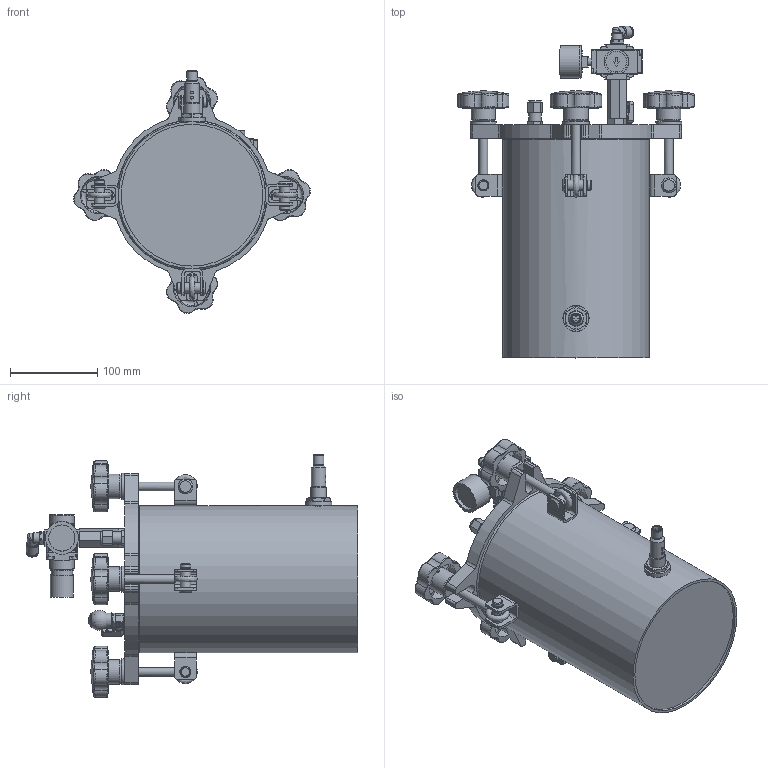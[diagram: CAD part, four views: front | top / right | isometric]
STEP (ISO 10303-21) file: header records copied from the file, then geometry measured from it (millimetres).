
FILE_DESCRIPTION (( 'STEP AP214' ), '1' );
FILE_NAME ('PT5LLS-AN.STEP', '2024-10-11T14:35:11', ( '' ), ( '' ), 'SwSTEP 2.0', 'SolidWorks 2024', '' );
FILE_SCHEMA (( 'AUTOMOTIVE_DESIGN' ));
Length unit declared in the file: millimetre
Products named in the file (1): PT5LLS-AN
Bounding box: 271.13 x 380 x 278 mm (x, y, z)
Volume: 1420714.1 mm3; surface area: 551899.9 mm2
Topology: 44 solids, 55 shells, 1428 faces, 3520 edges, 2277 vertices
Faces by surface type: plane 685, cylinder 342, bspline 215, cone 128, torus 54, sphere 4
Full cylindrical faces by diameter (mm): 0.8 x4, 1.9 x1, 2 x1, 3 x3, 4.5 x1, 5 x4, 5.5 x1, 5.6 x4, 6 x3, 6.15 x1, 7 x1, 7.4 x1, 7.5 x1, 8 x1, 8.15 x1, 8.3 x1, 8.376 x4, 8.5 x1, 8.566 x2, 9 x4, 9.4 x1, 10 x5, 10.4 x4, 11 x4, 11.445 x2, 11.6 x1, 11.7 x4, 11.8 x2, 12 x10, 12.5 x1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
Entity records: 73296 total; most frequent: CARTESIAN_POINT 42140, ORIENTED_EDGE 6384, DIRECTION 5647, EDGE_CURVE 3192, VERTEX_POINT 2175, AXIS2_PLACEMENT_3D 2024, EDGE_LOOP 1787, LINE 1599
